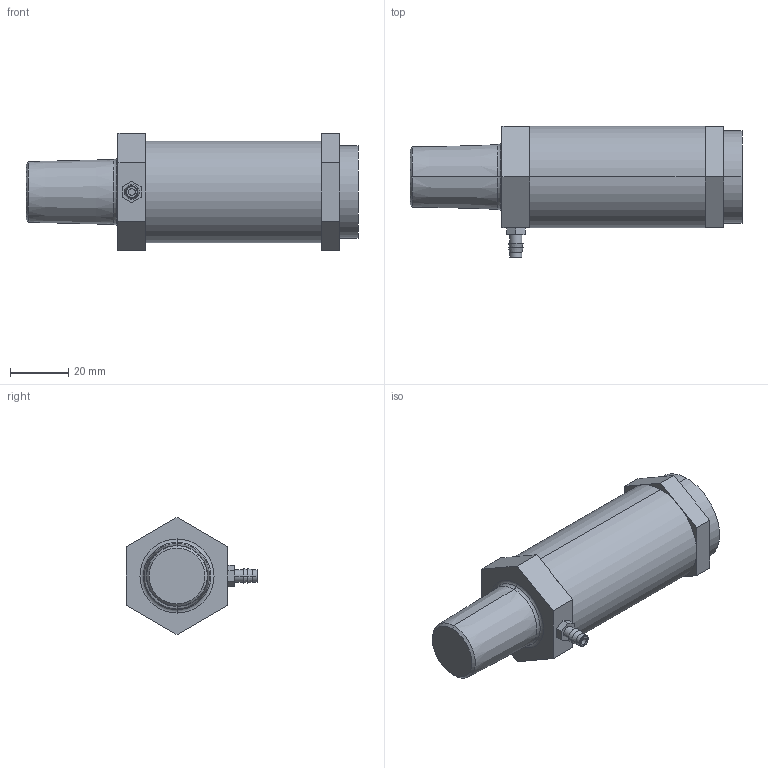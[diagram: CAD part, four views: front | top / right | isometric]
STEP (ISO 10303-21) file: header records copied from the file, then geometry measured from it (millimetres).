
FILE_DESCRIPTION((''),'2;1');
FILE_NAME('XE3_ASM','2017-08-24T',('jennifer.elliott'),('CenterLine (Windsor) Ltd - Automation Components Division'),'PRO/ENGINEER BY PARAMETRIC TECHNOLOGY CORPORATION, 2015030','PRO/ENGINEER BY PARAMETRIC TECHNOLOGY CORPORATION, 2015030','');
FILE_SCHEMA(('AUTOMOTIVE_DESIGN { 1 0 10303 214 1 1 1 1 }'));
Length unit declared in the file: inch
Products named in the file (6): PRT1036; PRT1037; PRT1038; PRT1039; PRT1040; XE3_ASM
Assembly tree (5 placements, depth 2):
  XE3_ASM
    PRT1036
    PRT1037
    PRT1038
    PRT1039
    PRT1040
Bounding box: 114.17 x 45.24 x 40.33 mm (x, y, z)
Volume: 91341.5 mm3; surface area: 19227.6 mm2
Topology: 5 solids, 5 shells, 58 faces, 120 edges, 76 vertices
Faces by surface type: plane 32, cylinder 10, torus 8, cone 8
Entity records: 1921 total; most frequent: DIRECTION 306, CARTESIAN_POINT 281, ORIENTED_EDGE 240, EDGE_CURVE 120, AXIS2_PLACEMENT_3D 117, VERTEX_POINT 76, VECTOR 72, LINE 72
